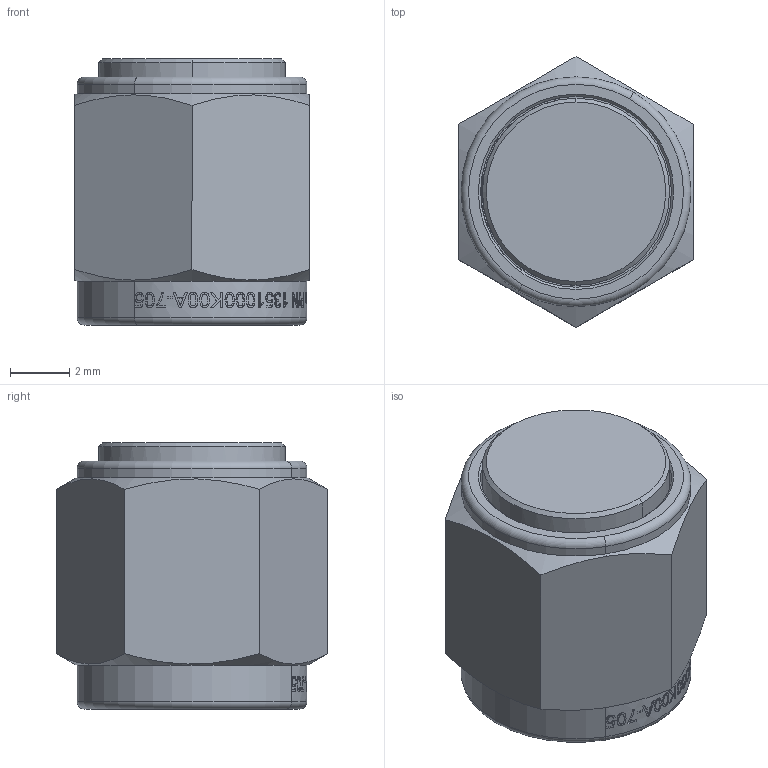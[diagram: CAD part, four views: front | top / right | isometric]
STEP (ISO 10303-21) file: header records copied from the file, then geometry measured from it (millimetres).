
FILE_DESCRIPTION (( 'STEP AP203' ), '1' );
FILE_NAME ('1351000K00A-705.STEP', '2023-11-08T21:30:31', ( '' ), ( '' ), 'SwSTEP 2.0', 'SolidWorks 2022', '' );
FILE_SCHEMA (( 'CONFIG_CONTROL_DESIGN' ));
Length unit declared in the file: inch
Products named in the file (1): 1351000K00A-705
Bounding box: 7.92 x 9.15 x 8.99 mm (x, y, z)
Volume: 327.3 mm3; surface area: 674.2 mm2
Topology: 1 solids, 2 shells, 529 faces, 1390 edges, 917 vertices
Faces by surface type: bspline 260, plane 154, cylinder 85, cone 22, torus 8
Entity records: 23782 total; most frequent: CARTESIAN_POINT 12910, ORIENTED_EDGE 2780, EDGE_CURVE 1390, DIRECTION 1312, VERTEX_POINT 917, B_SPLINE_CURVE_WITH_KNOTS 855, EDGE_LOOP 585, ADVANCED_FACE 529
